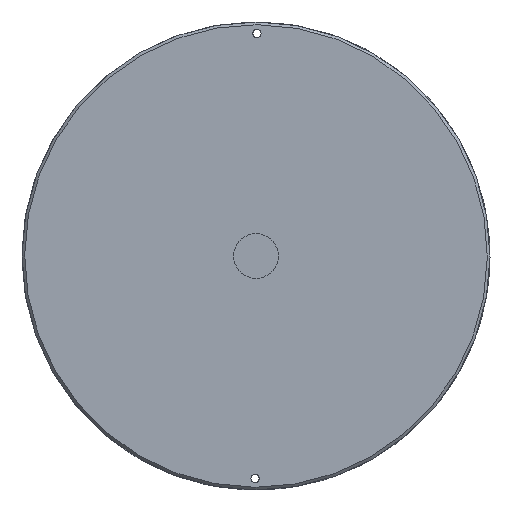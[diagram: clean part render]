
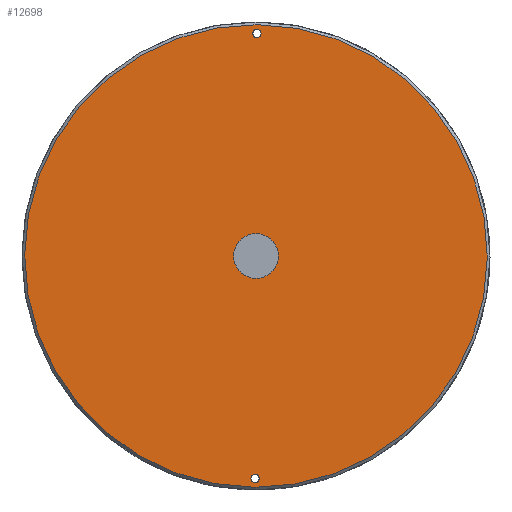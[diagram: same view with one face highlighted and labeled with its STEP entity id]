
A CAD part, front view. The second image highlights one B-rep face of the part: STEP entity #12698.
In plain terms, the highlighted planar face has unit normal (0, -1, 0).
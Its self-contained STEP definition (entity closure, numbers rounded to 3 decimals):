
#218 = EDGE_LOOP ( 'NONE', ( #17225 ) ) ;
#349 = AXIS2_PLACEMENT_3D ( 'NONE', #10656, #815, #14666 ) ;
#362 = EDGE_CURVE ( 'NONE', #421, #421, #3231, .T. ) ;
#421 = VERTEX_POINT ( 'NONE', #8407 ) ;
#815 = DIRECTION ( 'NONE',  ( 0., 1., 0. ) ) ;
#1853 = CARTESIAN_POINT ( 'NONE',  ( 163.874, 56.508, 201.961 ) ) ;
#1985 = DIRECTION ( 'NONE',  ( -1., 0., 0.004 ) ) ;
#2453 = FACE_BOUND ( 'NONE', #6788, .T. ) ;
#2587 = DIRECTION ( 'NONE',  ( -1., 0., 0.004 ) ) ;
#2870 = AXIS2_PLACEMENT_3D ( 'NONE', #6067, #16120, #1985 ) ;
#3231 = CIRCLE ( 'NONE', #8222, 3. ) ;
#4536 = CARTESIAN_POINT ( 'NONE',  ( 163.946, 56.508, 218.461 ) ) ;
#4986 = CARTESIAN_POINT ( 'NONE',  ( 160.158, 56.508, 37.976 ) ) ;
#5141 = ORIENTED_EDGE ( 'NONE', *, *, #23359, .F. ) ;
#5385 = EDGE_LOOP ( 'NONE', ( #8212 ) ) ;
#6067 = CARTESIAN_POINT ( 'NONE',  ( 163.158, 56.508, 37.963 ) ) ;
#6788 = EDGE_LOOP ( 'NONE', ( #5141 ) ) ;
#8212 = ORIENTED_EDGE ( 'NONE', *, *, #14233, .T. ) ;
#8222 = AXIS2_PLACEMENT_3D ( 'NONE', #17766, #20255, #25918 ) ;
#8407 = CARTESIAN_POINT ( 'NONE',  ( 161.589, 56.508, 365.973 ) ) ;
#8888 = VERTEX_POINT ( 'NONE', #4986 ) ;
#9145 = CIRCLE ( 'NONE', #349, 170.5 ) ;
#9848 = DIRECTION ( 'NONE',  ( -1., 0., 0.004 ) ) ;
#9983 = EDGE_LOOP ( 'NONE', ( #15176 ) ) ;
#10223 = AXIS2_PLACEMENT_3D ( 'NONE', #4536, #20656, #2587 ) ;
#10449 = PLANE ( 'NONE',  #10223 ) ;
#10656 = CARTESIAN_POINT ( 'NONE',  ( 163.874, 56.508, 201.961 ) ) ;
#11294 = EDGE_CURVE ( 'NONE', #17326, #17326, #9145, .T. ) ;
#12698 = ADVANCED_FACE ( 'Defeatured_0_0', ( #12977, #24844, #14847, #2453 ), #10449, .F. ) ;
#12977 = FACE_BOUND ( 'NONE', #218, .T. ) ;
#13585 = VERTEX_POINT ( 'NONE', #19801 ) ;
#14233 = EDGE_CURVE ( 'NONE', #13585, #13585, #24494, .T. ) ;
#14666 = DIRECTION ( 'NONE',  ( -1., 0., 0.004 ) ) ;
#14847 = FACE_OUTER_BOUND ( 'NONE', #9983, .T. ) ;
#15176 = ORIENTED_EDGE ( 'NONE', *, *, #11294, .F. ) ;
#15840 = DIRECTION ( 'NONE',  ( 0., 1., 0. ) ) ;
#16120 = DIRECTION ( 'NONE',  ( 0., -1., 0. ) ) ;
#17225 = ORIENTED_EDGE ( 'NONE', *, *, #362, .T. ) ;
#17326 = VERTEX_POINT ( 'NONE', #19284 ) ;
#17766 = CARTESIAN_POINT ( 'NONE',  ( 164.589, 56.508, 365.96 ) ) ;
#18199 = AXIS2_PLACEMENT_3D ( 'NONE', #1853, #15840, #9848 ) ;
#19284 = CARTESIAN_POINT ( 'NONE',  ( -6.625, 56.508, 202.705 ) ) ;
#19801 = CARTESIAN_POINT ( 'NONE',  ( 147.374, 56.508, 202.033 ) ) ;
#20255 = DIRECTION ( 'NONE',  ( 0., 1., 0. ) ) ;
#20656 = DIRECTION ( 'NONE',  ( 0., 1., 0. ) ) ;
#23359 = EDGE_CURVE ( 'NONE', #8888, #8888, #25187, .T. ) ;
#24494 = CIRCLE ( 'NONE', #18199, 16.5 ) ;
#24844 = FACE_BOUND ( 'NONE', #5385, .T. ) ;
#25187 = CIRCLE ( 'NONE', #2870, 3. ) ;
#25918 = DIRECTION ( 'NONE',  ( -1., 0., 0.004 ) ) ;
